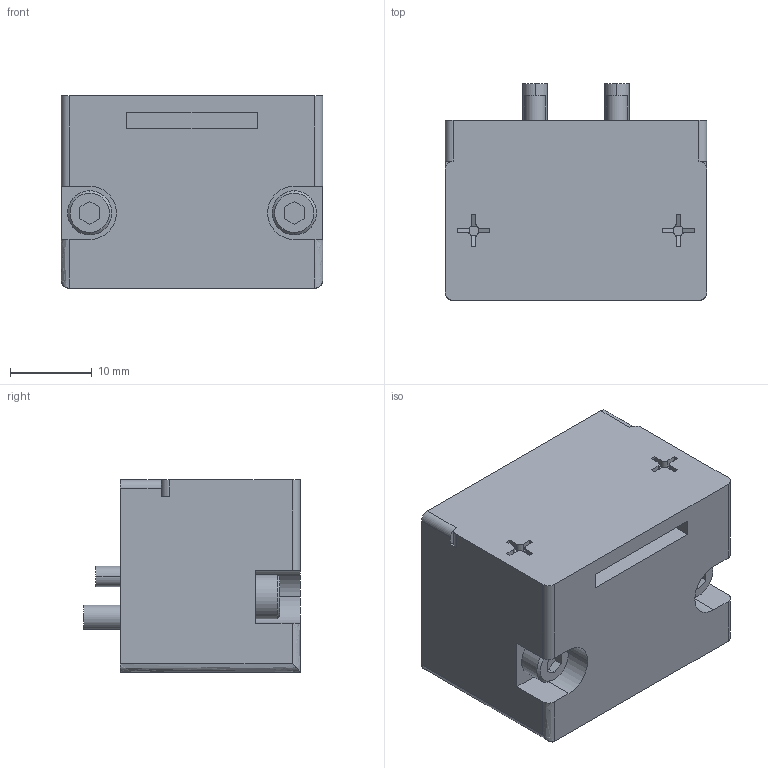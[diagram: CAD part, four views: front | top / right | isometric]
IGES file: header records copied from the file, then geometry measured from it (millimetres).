
Start section: 3D InterOp IGES (v. 2022 1.0.0), Spatial Corp. Copyright (c) 1999-2020.
Global section: file name: KHF-3RS-D38_ver1.igs; native system: Spatial Corp.; preprocessor: 3D InterOp GENERIC/IGES 3.0; author: Noname; organization: Noname; date: 20260424.104235; units: millimetre
Bounding box: 32 x 26.5 x 23.5 mm (x, y, z)
Surface area: 6312.7 mm2 (no closed solid volume)
Topology: 0 solids, 0 shells, 308 faces, 1374 edges, 1374 vertices
Faces by surface type: extrusion 167, revolution 141
